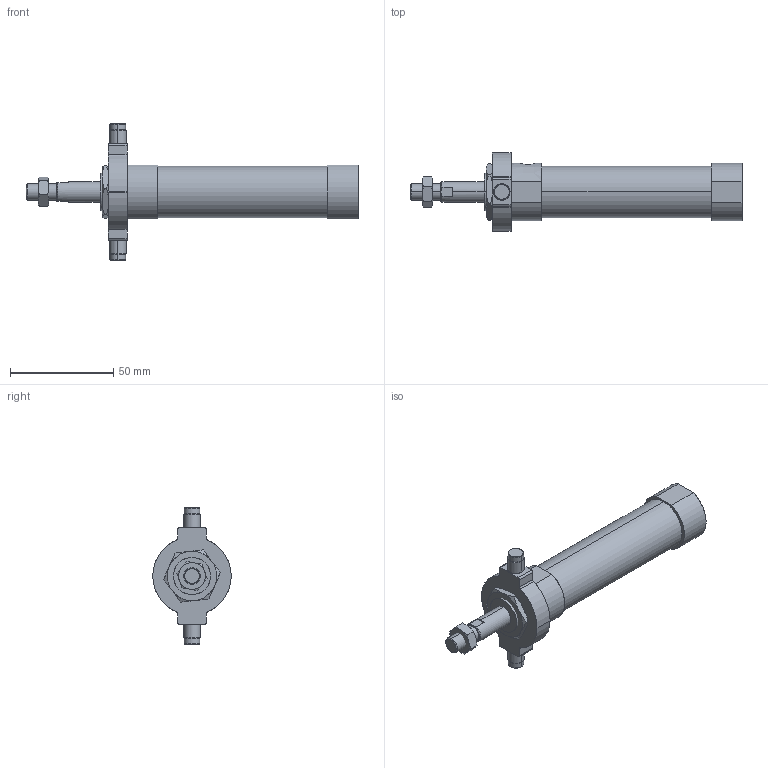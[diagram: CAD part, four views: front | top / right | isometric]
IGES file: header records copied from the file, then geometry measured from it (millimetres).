
Start section: SolidWorks IGES file using analytic representation for surfaces
Global section: file name: C:\Users\Toshiba\Desktop\JGND0-20-15-T.IGS; native system: SolidWorks 2014; preprocessor: SolidWorks 2014; author: Toshiba; date: 160804.100312; units: millimetre
Bounding box: 161 x 38 x 66 mm (x, y, z)
Surface area: 18312.5 mm2 (no closed solid volume)
Topology: 0 solids, 0 shells, 120 faces, 1866 edges, 1866 vertices
Faces by surface type: bspline 67, revolution 53
